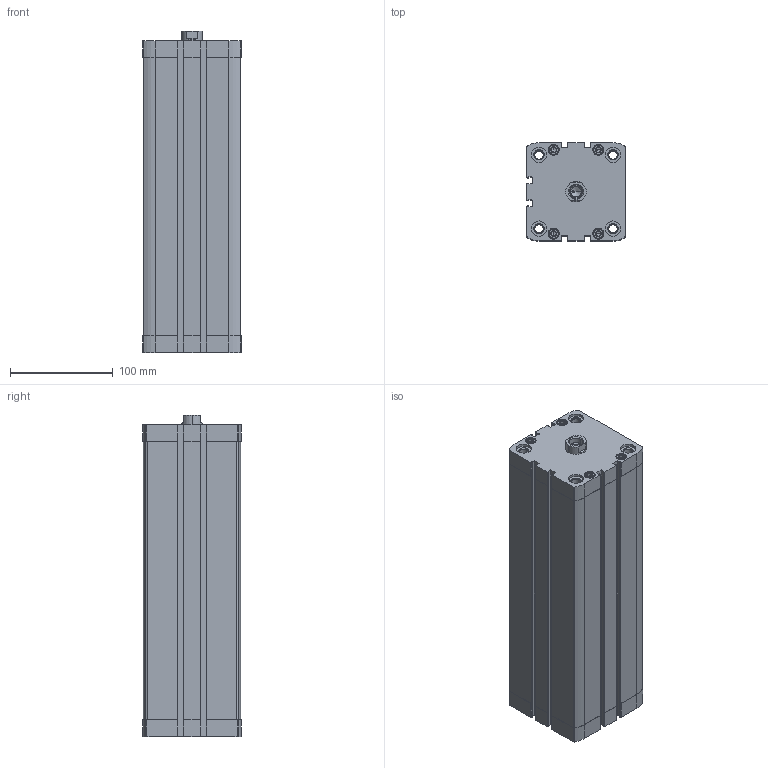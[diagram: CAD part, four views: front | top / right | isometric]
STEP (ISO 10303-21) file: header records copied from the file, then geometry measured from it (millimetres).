
FILE_DESCRIPTION (( 'STEP AP203' ), '1' );
FILE_NAME ('CCN80-250F.STEP', '2017-04-05T19:56:38', ( '' ), ( '' ), 'SwSTEP 2.0', 'SolidWorks 2016', '' );
FILE_SCHEMA (( 'CONFIG_CONTROL_DESIGN' ));
Length unit declared in the file: millimetre
Products named in the file (3): CCN-250---(Z); CCN-250_(KS); CCN80-250F
Assembly tree (2 placements, depth 2):
  CCN80-250F
    CCN-250---(Z)
    CCN-250_(KS)
Bounding box: 95.5 x 95.5 x 312.9 mm (x, y, z)
Volume: 1417732.1 mm3; surface area: 300896.1 mm2
Topology: 2 solids, 2 shells, 487 faces, 1230 edges, 777 vertices
Faces by surface type: plane 227, cylinder 186, cone 74
Entity records: 15261 total; most frequent: CARTESIAN_POINT 3031, DIRECTION 2612, ORIENTED_EDGE 2424, EDGE_CURVE 1212, AXIS2_PLACEMENT_3D 974, VERTEX_POINT 777, VECTOR 664, LINE 664
